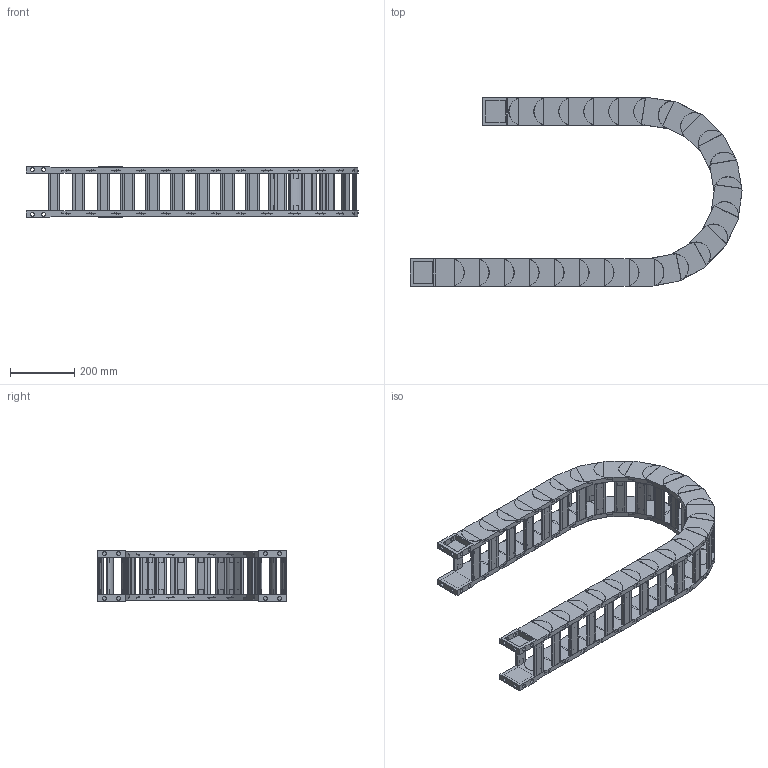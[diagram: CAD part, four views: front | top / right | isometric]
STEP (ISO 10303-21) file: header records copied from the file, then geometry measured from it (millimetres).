
FILE_DESCRIPTION((''),'2;1');
FILE_NAME('HD65-R250-ZPT_ASM','2022-06-18T15:57:54',('admin'),(''),'CREO PARAMETRIC BY PTC INC, 2021164','CREO PARAMETRIC BY PTC INC, 2021164','');
FILE_SCHEMA(('CONFIG_CONTROL_DESIGN','GEOMETRIC_VALIDATION_PROPERTIES_MIM'));
Length unit declared in the file: millimetre
Products named in the file (6): HD65; 65-50HDQSYP; HD65_ASM; H65-T1; H65-T2; HD65-R250-ZPT_ASM
Assembly tree (29 placements, depth 3):
  HD65-R250-ZPT_ASM
    HD65_ASM  x23
      HD65
      65-50HDQSYP
    H65-T1
    H65-T2
    65-50HDQSYP  x2
Bounding box: 1030.73 x 585.89 x 157.4 mm (x, y, z)
Volume: 7325683.2 mm3; surface area: 2191185.5 mm2
Topology: 100 solids, 100 shells, 1844 faces, 4858 edges, 3318 vertices
Faces by surface type: plane 1416, cylinder 428
Entity records: 8932 total; most frequent: CARTESIAN_POINT 1334, DIRECTION 1302, ORIENTED_EDGE 1212, EDGE_CURVE 606, AXIS2_PLACEMENT_3D 439, VECTOR 424, LINE 424, VERTEX_POINT 410
